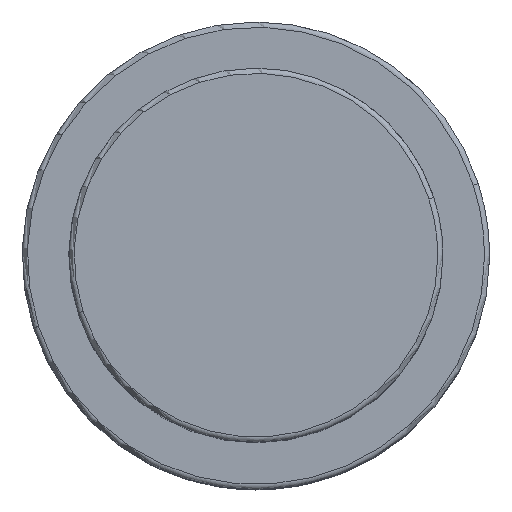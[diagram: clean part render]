
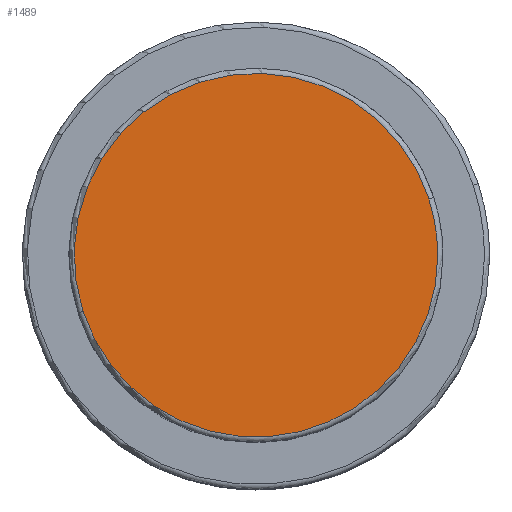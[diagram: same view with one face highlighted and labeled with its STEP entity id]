
A CAD part, top view. The second image highlights one B-rep face of the part: STEP entity #1489.
In plain terms, the highlighted planar face has unit normal (0, 0, 1).
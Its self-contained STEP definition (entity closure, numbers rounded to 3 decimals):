
#1455=CARTESIAN_POINT('',(17.5,0.0,58.0));
#1456=VERTEX_POINT('',#1455);
#1457=CARTESIAN_POINT('',(16.643,5.408,58.0));
#1458=VERTEX_POINT('',#1457);
#1459=CARTESIAN_POINT('',(0.0,0.0,58.0));
#1460=DIRECTION('',(0.0,0.0,1.0));
#1461=DIRECTION('',(1.0,0.0,0.0));
#1462=AXIS2_PLACEMENT_3D('',#1459,#1460,#1461);
#1463=CIRCLE('',#1462,17.5);
#1464=EDGE_CURVE('no 1724',#1456,#1458,#1463,.T.);
#1465=ORIENTED_EDGE('',*,*,#1464,.T.);
#1466=CARTESIAN_POINT('',(-16.643,-5.408,58.0));
#1467=VERTEX_POINT('',#1466);
#1468=CARTESIAN_POINT('',(0.0,0.0,58.0));
#1469=DIRECTION('',(0.0,0.0,1.0));
#1470=DIRECTION('',(1.0,0.0,0.0));
#1471=AXIS2_PLACEMENT_3D('',#1468,#1469,#1470);
#1472=CIRCLE('',#1471,17.5);
#1473=EDGE_CURVE('no 1730',#1458,#1467,#1472,.T.);
#1474=ORIENTED_EDGE('',*,*,#1473,.T.);
#1475=CARTESIAN_POINT('',(0.0,0.0,58.0));
#1476=DIRECTION('',(0.0,0.0,1.0));
#1477=DIRECTION('',(1.0,0.0,0.0));
#1478=AXIS2_PLACEMENT_3D('',#1475,#1476,#1477);
#1479=CIRCLE('',#1478,17.5);
#1480=EDGE_CURVE('no 1734',#1467,#1456,#1479,.T.);
#1481=ORIENTED_EDGE('',*,*,#1480,.T.);
#1482=EDGE_LOOP('',(#1465,#1474,#1481));
#1483=FACE_OUTER_BOUND('',#1482,.T.);
#1484=CARTESIAN_POINT('',(0.0,0.0,58.0));
#1485=DIRECTION('',(0.0,0.0,1.0));
#1486=DIRECTION('',(1.0,0.0,0.0));
#1487=AXIS2_PLACEMENT_3D('',#1484,#1485,#1486);
#1488=PLANE('',#1487);
#1489=ADVANCED_FACE('no 1715',(#1483),#1488,.T.);
